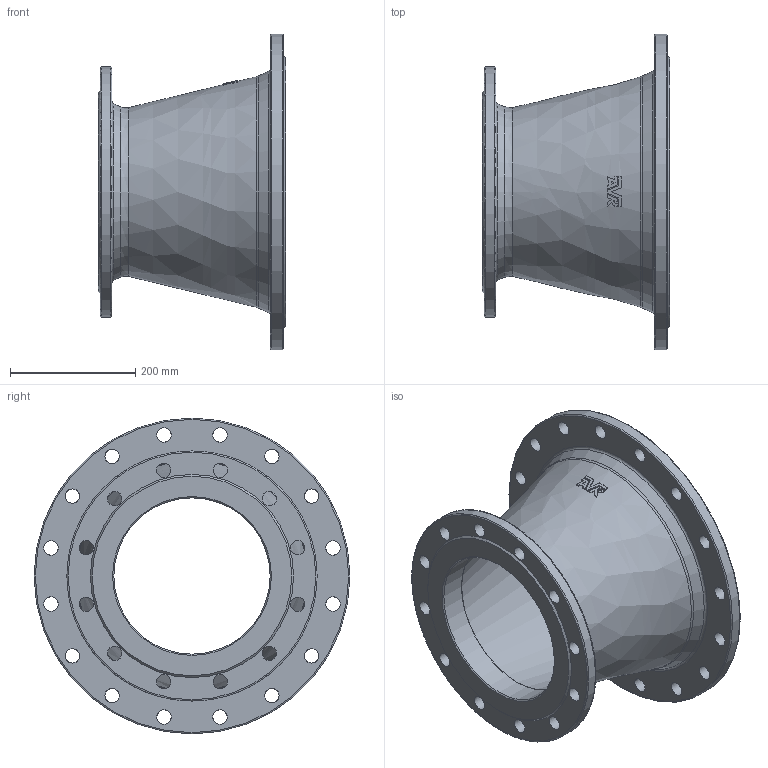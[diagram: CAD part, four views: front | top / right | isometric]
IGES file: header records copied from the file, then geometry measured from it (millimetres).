
Start section: SolidWorks IGES file using analytic representation for surfaces
Global section: file name: \\avksan2\techshare\PBM outline export from Enovia\O_712_2210_DN350_DN250_0X_REV01.igs; native system: SolidWorks 2022; preprocessor: SolidWorks 2022; author: pbm; date: 240808.080952; units: millimetre
Bounding box: 300 x 505 x 505 mm (x, y, z)
Surface area: 946199.7 mm2 (no closed solid volume)
Topology: 0 solids, 0 shells, 97 faces, 504 edges, 438 vertices
Faces by surface type: revolution 56, bspline 41
